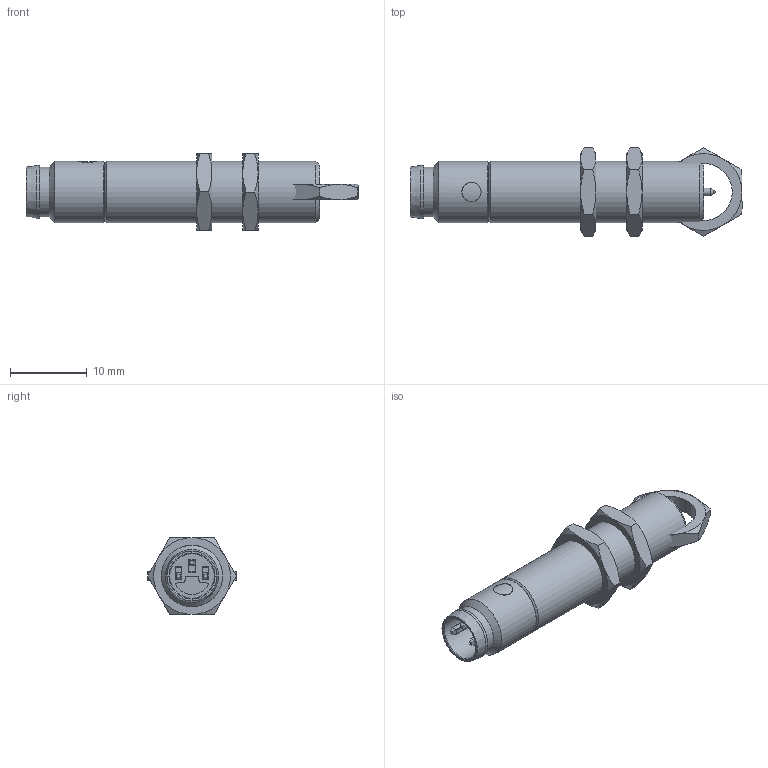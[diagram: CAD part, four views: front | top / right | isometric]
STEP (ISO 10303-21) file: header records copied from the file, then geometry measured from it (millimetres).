
FILE_DESCRIPTION( ( 'Unknown' ), '1' );
FILE_NAME( 'Z:/bereich/BECH/Services/me_CAD/Solid Edge/Models/Dokumentationen/MyCom+MS/MyCom G/Vereinfachte Modelle/Neutralformate/MY COM_G_S35L.stp', 'Unknown', ( 'Unknown' ), ( 'Unknown' ), 'XStep 1.0', 'Unknown', ' ' );
FILE_SCHEMA( ( 'automotive_design' ) );
Length unit declared in the file: millimetre
Products named in the file (3): Assem1; MY COM_G_S35L_oA; 109365
Bounding box: 43.2 x 11.55 x 10 mm (x, y, z)
Volume: 3669.1 mm3; surface area: 3021.6 mm2
Topology: 5 solids, 5 shells, 247 faces, 616 edges, 395 vertices
Faces by surface type: plane 134, cylinder 59, cone 52, sphere 2
Full cylindrical faces by diameter (mm): 1 x2, 2.5 x2, 5.8 x2, 6.5 x2, 6.9 x2, 7.459 x3, 8 x4
Entity records: 3479 total; most frequent: CARTESIAN_POINT 760, DIRECTION 557, ORIENTED_EDGE 530, EDGE_CURVE 265, AXIS2_PLACEMENT_3D 201, VERTEX_POINT 180, LINE 155, VECTOR 155
